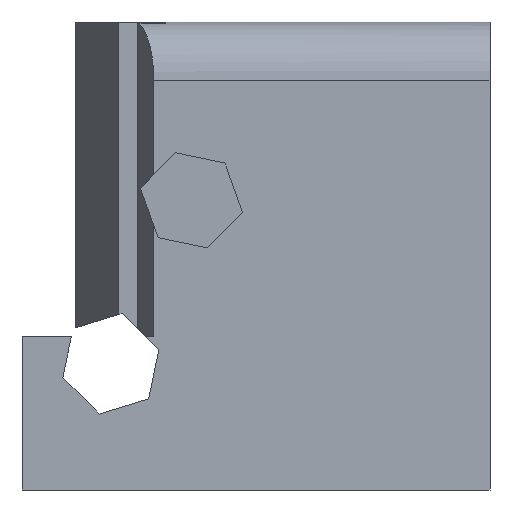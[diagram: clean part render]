
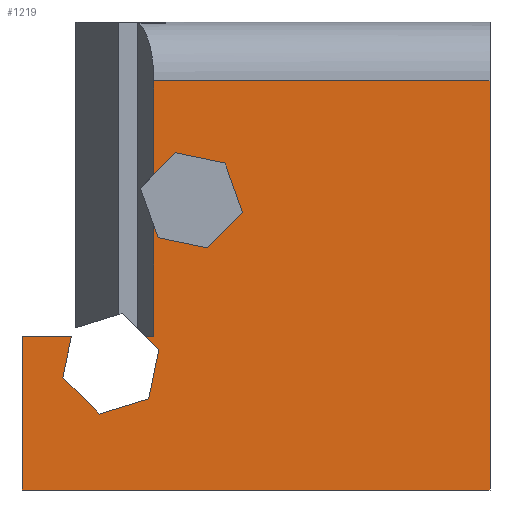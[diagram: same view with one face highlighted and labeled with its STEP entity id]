
A CAD part, front view. The second image highlights one B-rep face of the part: STEP entity #1219.
In plain terms, the highlighted planar face has unit normal (0, -1, 0).
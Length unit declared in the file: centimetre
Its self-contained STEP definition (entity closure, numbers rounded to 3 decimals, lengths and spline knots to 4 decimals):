
#11 = EDGE_CURVE ( 'NONE', #1582, #1680, #75, .T. ) ;
#37 = DIRECTION ( 'NONE',  ( 0.979, 0., -0.205 ) ) ;
#75 = LINE ( 'NONE', #730, #950 ) ;
#79 = VERTEX_POINT ( 'NONE', #1270 ) ;
#84 = LINE ( 'NONE', #738, #1518 ) ;
#87 = VECTOR ( 'NONE', #418, 100. ) ;
#127 = VECTOR ( 'NONE', #2043, 100. ) ;
#138 = CARTESIAN_POINT ( 'NONE',  ( 87.2872, 0., 240.3395 ) ) ;
#151 = DIRECTION ( 'NONE',  ( 0.335, 0., -0.942 ) ) ;
#177 = CARTESIAN_POINT ( 'NONE',  ( 281.6295, 0., 874.0839 ) ) ;
#193 = VECTOR ( 'NONE', #1347, 100. ) ;
#213 = ORIENTED_EDGE ( 'NONE', *, *, #1802, .T. ) ;
#221 = CARTESIAN_POINT ( 'NONE',  ( 433.6155, 0., 698.7837 ) ) ;
#229 = LINE ( 'NONE', #885, #502 ) ;
#239 = CARTESIAN_POINT ( 'NONE',  ( 0., 0., 0. ) ) ;
#246 = EDGE_CURVE ( 'NONE', #1973, #519, #1807, .T. ) ;
#256 = CARTESIAN_POINT ( 'NONE',  ( 0., 0., 1000. ) ) ;
#262 = CARTESIAN_POINT ( 'NONE',  ( 292.4632, 0., 299.5775 ) ) ;
#263 = VERTEX_POINT ( 'NONE', #967 ) ;
#276 = VERTEX_POINT ( 'NONE', #1635 ) ;
#294 = CARTESIAN_POINT ( 'NONE',  ( 105.3654, 0., 327.7109 ) ) ;
#336 = DIRECTION ( 'NONE',  ( -0.979, 0., 0.205 ) ) ;
#346 = CARTESIAN_POINT ( 'NONE',  ( 0., 0., 327.7109 ) ) ;
#380 = LINE ( 'NONE', #1025, #1123 ) ;
#400 = CARTESIAN_POINT ( 'NONE',  ( 290.7808, 0., 539.0679 ) ) ;
#409 = ORIENTED_EDGE ( 'NONE', *, *, #1931, .F. ) ;
#412 = LINE ( 'NONE', #1401, #127 ) ;
#418 = DIRECTION ( 'NONE',  ( -0.707, 0., -0.707 ) ) ;
#434 = VECTOR ( 'NONE', #1471, 100. ) ;
#460 = CARTESIAN_POINT ( 'NONE',  ( 253.1102, 0., 645.0664 ) ) ;
#464 = VECTOR ( 'NONE', #1915, 100. ) ;
#497 = ORIENTED_EDGE ( 'NONE', *, *, #1177, .F. ) ;
#502 = VECTOR ( 'NONE', #1201, 100. ) ;
#511 = ORIENTED_EDGE ( 'NONE', *, *, #1763, .F. ) ;
#519 = VERTEX_POINT ( 'NONE', #1003 ) ;
#522 = CARTESIAN_POINT ( 'NONE',  ( 281.6295, 0., 327.7109 ) ) ;
#534 = ORIENTED_EDGE ( 'NONE', *, *, #1194, .T. ) ;
#549 = DIRECTION ( 'NONE',  ( -0.707, 0., 0.707 ) ) ;
#560 = LINE ( 'NONE', #571, #87 ) ;
#571 = CARTESIAN_POINT ( 'NONE',  ( 328.7479, 0., 720.704 ) ) ;
#594 = DIRECTION ( 'NONE',  ( 0., 0., 1. ) ) ;
#602 = VERTEX_POINT ( 'NONE', #138 ) ;
#604 = EDGE_CURVE ( 'NONE', #602, #1960, #1811, .T. ) ;
#630 = VERTEX_POINT ( 'NONE', #873 ) ;
#633 = VERTEX_POINT ( 'NONE', #1687 ) ;
#674 = ORIENTED_EDGE ( 'NONE', *, *, #1249, .F. ) ;
#675 = CARTESIAN_POINT ( 'NONE',  ( 292.4632, 0., 299.5775 ) ) ;
#678 = CARTESIAN_POINT ( 'NONE',  ( 281.6295, 0., 327.7109 ) ) ;
#690 = EDGE_CURVE ( 'NONE', #1040, #1152, #229, .T. ) ;
#706 = VECTOR ( 'NONE', #151, 100. ) ;
#721 = CARTESIAN_POINT ( 'NONE',  ( 471.2861, 0., 592.7852 ) ) ;
#724 = CARTESIAN_POINT ( 'NONE',  ( 165.2973, 0., 162.3295 ) ) ;
#730 = CARTESIAN_POINT ( 'NONE',  ( 0., 0., 1000. ) ) ;
#731 = EDGE_CURVE ( 'NONE', #1582, #1960, #1677, .T. ) ;
#738 = CARTESIAN_POINT ( 'NONE',  ( 270.7957, 0., 194.8589 ) ) ;
#743 = VECTOR ( 'NONE', #336, 100. ) ;
#765 = LINE ( 'NONE', #2064, #2034 ) ;
#792 = CARTESIAN_POINT ( 'NONE',  ( 87.2872, 0., 240.3395 ) ) ;
#807 = EDGE_CURVE ( 'NONE', #1680, #630, #1231, .T. ) ;
#812 = LINE ( 'NONE', #1803, #743 ) ;
#873 = CARTESIAN_POINT ( 'NONE',  ( 1000., 0., 0. ) ) ;
#882 = VERTEX_POINT ( 'NONE', #1573 ) ;
#885 = CARTESIAN_POINT ( 'NONE',  ( 395.6484, 0., 517.1476 ) ) ;
#897 = DIRECTION ( 'NONE',  ( -0.335, 0., 0.942 ) ) ;
#901 = ORIENTED_EDGE ( 'NONE', *, *, #690, .F. ) ;
#913 = DIRECTION ( 'NONE',  ( 0., 1., 0. ) ) ;
#928 = EDGE_CURVE ( 'NONE', #1498, #1402, #765, .T. ) ;
#937 = DIRECTION ( 'NONE',  ( -1., 0., 0. ) ) ;
#950 = VECTOR ( 'NONE', #1197, 100. ) ;
#967 = CARTESIAN_POINT ( 'NONE',  ( 328.7479, 0., 720.704 ) ) ;
#971 = EDGE_CURVE ( 'NONE', #276, #1973, #1505, .T. ) ;
#1003 = CARTESIAN_POINT ( 'NONE',  ( 270.7957, 0., 194.8589 ) ) ;
#1025 = CARTESIAN_POINT ( 'NONE',  ( 471.2861, 0., 592.7852 ) ) ;
#1028 = CARTESIAN_POINT ( 'NONE',  ( 1000., 0., 874.0839 ) ) ;
#1040 = VERTEX_POINT ( 'NONE', #1133 ) ;
#1045 = LINE ( 'NONE', #724, #1969 ) ;
#1074 = PLANE ( 'NONE',  #1153 ) ;
#1098 = LINE ( 'NONE', #1922, #1933 ) ;
#1123 = VECTOR ( 'NONE', #897, 100. ) ;
#1133 = CARTESIAN_POINT ( 'NONE',  ( 395.6484, 0., 517.1476 ) ) ;
#1135 = ORIENTED_EDGE ( 'NONE', *, *, #928, .T. ) ;
#1140 = DIRECTION ( 'NONE',  ( 0., 0., 1. ) ) ;
#1152 = VERTEX_POINT ( 'NONE', #721 ) ;
#1153 = AXIS2_PLACEMENT_3D ( 'NONE', #256, #913, #594 ) ;
#1177 = EDGE_CURVE ( 'NONE', #263, #79, #560, .T. ) ;
#1194 = EDGE_CURVE ( 'NONE', #519, #1770, #84, .T. ) ;
#1197 = DIRECTION ( 'NONE',  ( 0., 0., -1. ) ) ;
#1201 = DIRECTION ( 'NONE',  ( 0.707, 0., 0.707 ) ) ;
#1219 = ADVANCED_FACE ( 'NONE', ( #1238 ), #1074, .F. ) ;
#1231 = LINE ( 'NONE', #2077, #464 ) ;
#1238 = FACE_OUTER_BOUND ( 'NONE', #1490, .T. ) ;
#1249 = EDGE_CURVE ( 'NONE', #276, #882, #1098, .T. ) ;
#1270 = CARTESIAN_POINT ( 'NONE',  ( 281.6295, 0., 673.5856 ) ) ;
#1280 = LINE ( 'NONE', #460, #706 ) ;
#1281 = CARTESIAN_POINT ( 'NONE',  ( 214.4531, 0., 377.5875 ) ) ;
#1323 = VECTOR ( 'NONE', #1923, 100. ) ;
#1324 = EDGE_CURVE ( 'NONE', #633, #1409, #1280, .T. ) ;
#1334 = CARTESIAN_POINT ( 'NONE',  ( 290.7808, 0., 539.0679 ) ) ;
#1347 = DIRECTION ( 'NONE',  ( 1., 0., 0. ) ) ;
#1378 = CARTESIAN_POINT ( 'NONE',  ( 165.2973, 0., 162.3295 ) ) ;
#1386 = EDGE_CURVE ( 'NONE', #882, #633, #1958, .T. ) ;
#1390 = ORIENTED_EDGE ( 'NONE', *, *, #971, .T. ) ;
#1401 = CARTESIAN_POINT ( 'NONE',  ( 1000., 0., 1000. ) ) ;
#1402 = VERTEX_POINT ( 'NONE', #177 ) ;
#1409 = VERTEX_POINT ( 'NONE', #1334 ) ;
#1449 = DIRECTION ( 'NONE',  ( 1., 0., 0. ) ) ;
#1471 = DIRECTION ( 'NONE',  ( -0.203, 0., -0.979 ) ) ;
#1490 = EDGE_LOOP ( 'NONE', ( #511, #1950, #2059, #674, #1390, #1494, #534, #213, #1857, #1594, #1764, #1793, #1755, #1135, #409, #497, #2008, #1981, #901 ) ) ;
#1494 = ORIENTED_EDGE ( 'NONE', *, *, #246, .T. ) ;
#1498 = VERTEX_POINT ( 'NONE', #1028 ) ;
#1505 = LINE ( 'NONE', #1281, #1323 ) ;
#1518 = VECTOR ( 'NONE', #1847, 100. ) ;
#1532 = LINE ( 'NONE', #400, #1655 ) ;
#1561 = VERTEX_POINT ( 'NONE', #221 ) ;
#1573 = CARTESIAN_POINT ( 'NONE',  ( 281.6295, 0., 327.7109 ) ) ;
#1582 = VERTEX_POINT ( 'NONE', #346 ) ;
#1584 = CARTESIAN_POINT ( 'NONE',  ( 281.6295, 0., 327.7109 ) ) ;
#1594 = ORIENTED_EDGE ( 'NONE', *, *, #731, .F. ) ;
#1624 = VECTOR ( 'NONE', #1724, 100. ) ;
#1635 = CARTESIAN_POINT ( 'NONE',  ( 264.3298, 0., 327.7109 ) ) ;
#1655 = VECTOR ( 'NONE', #37, 100. ) ;
#1677 = LINE ( 'NONE', #522, #193 ) ;
#1678 = EDGE_CURVE ( 'NONE', #1152, #1561, #380, .T. ) ;
#1680 = VERTEX_POINT ( 'NONE', #239 ) ;
#1687 = CARTESIAN_POINT ( 'NONE',  ( 281.6295, 0., 564.8181 ) ) ;
#1724 = DIRECTION ( 'NONE',  ( 0., 0., 1. ) ) ;
#1726 = VECTOR ( 'NONE', #2088, 100. ) ;
#1755 = ORIENTED_EDGE ( 'NONE', *, *, #1949, .F. ) ;
#1763 = EDGE_CURVE ( 'NONE', #1409, #1040, #1532, .T. ) ;
#1764 = ORIENTED_EDGE ( 'NONE', *, *, #11, .T. ) ;
#1766 = VECTOR ( 'NONE', #1140, 100. ) ;
#1770 = VERTEX_POINT ( 'NONE', #1378 ) ;
#1793 = ORIENTED_EDGE ( 'NONE', *, *, #807, .T. ) ;
#1802 = EDGE_CURVE ( 'NONE', #1770, #602, #1045, .T. ) ;
#1803 = CARTESIAN_POINT ( 'NONE',  ( 433.6155, 0., 698.7837 ) ) ;
#1807 = LINE ( 'NONE', #675, #434 ) ;
#1811 = LINE ( 'NONE', #792, #1726 ) ;
#1847 = DIRECTION ( 'NONE',  ( -0.956, 0., -0.295 ) ) ;
#1857 = ORIENTED_EDGE ( 'NONE', *, *, #604, .T. ) ;
#1915 = DIRECTION ( 'NONE',  ( 1., 0., 0. ) ) ;
#1922 = CARTESIAN_POINT ( 'NONE',  ( 281.6295, 0., 327.7109 ) ) ;
#1923 = DIRECTION ( 'NONE',  ( 0.707, 0., -0.707 ) ) ;
#1931 = EDGE_CURVE ( 'NONE', #79, #1402, #2036, .T. ) ;
#1933 = VECTOR ( 'NONE', #1449, 100. ) ;
#1949 = EDGE_CURVE ( 'NONE', #1498, #630, #412, .T. ) ;
#1950 = ORIENTED_EDGE ( 'NONE', *, *, #1324, .F. ) ;
#1958 = LINE ( 'NONE', #678, #1766 ) ;
#1960 = VERTEX_POINT ( 'NONE', #294 ) ;
#1969 = VECTOR ( 'NONE', #549, 100. ) ;
#1973 = VERTEX_POINT ( 'NONE', #262 ) ;
#1981 = ORIENTED_EDGE ( 'NONE', *, *, #1678, .F. ) ;
#2008 = ORIENTED_EDGE ( 'NONE', *, *, #2062, .F. ) ;
#2034 = VECTOR ( 'NONE', #937, 100. ) ;
#2036 = LINE ( 'NONE', #1584, #1624 ) ;
#2043 = DIRECTION ( 'NONE',  ( 0., 0., -1. ) ) ;
#2059 = ORIENTED_EDGE ( 'NONE', *, *, #1386, .F. ) ;
#2062 = EDGE_CURVE ( 'NONE', #1561, #263, #812, .T. ) ;
#2064 = CARTESIAN_POINT ( 'NONE',  ( 0., 0., 874.0839 ) ) ;
#2077 = CARTESIAN_POINT ( 'NONE',  ( 0., 0., 0. ) ) ;
#2088 = DIRECTION ( 'NONE',  ( 0.203, 0., 0.979 ) ) ;
